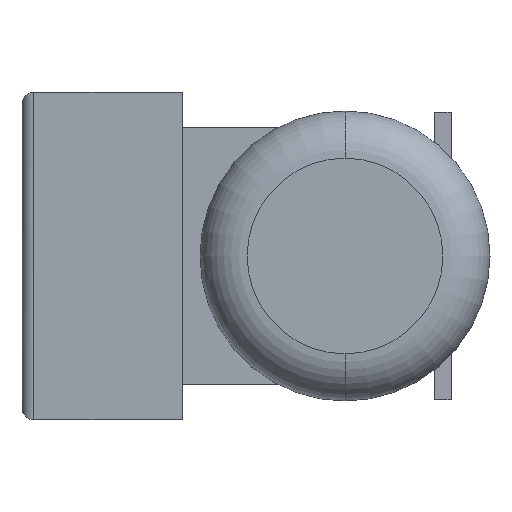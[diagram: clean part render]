
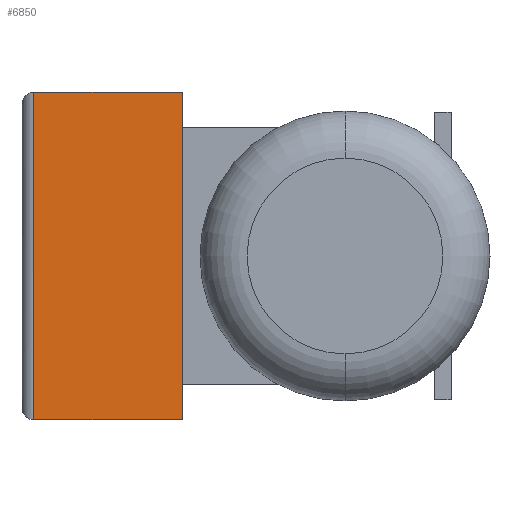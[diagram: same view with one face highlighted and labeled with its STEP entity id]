
A CAD part, left-side view. The second image highlights one B-rep face of the part: STEP entity #6850.
In plain terms, the highlighted planar face has unit normal (-1, 0, 0).
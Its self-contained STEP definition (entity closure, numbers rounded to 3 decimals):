
#4260=CARTESIAN_POINT('',(-162.5,96.731,-69.5));
#4270=VERTEX_POINT('',#4260);
#4300=CARTESIAN_POINT('',(-162.5,96.731,64.049));
#4310=DIRECTION('',(0.,0.,-1.));
#4320=VECTOR('',#4310,1.);
#4330=LINE('',#4300,#4320);
#4340=CARTESIAN_POINT('',(-162.5,96.731,69.5));
#4350=VERTEX_POINT('',#4340);
#4360=EDGE_CURVE('',#4350,#4270,#4330,.T.);
#4800=CARTESIAN_POINT('',(-162.5,159.731,69.5));
#4810=VERTEX_POINT('',#4800);
#6200=CARTESIAN_POINT('',(-162.5,159.731,-69.5));
#6210=VERTEX_POINT('',#6200);
#6450=CARTESIAN_POINT('',(-162.5,149.731,-69.5));
#6460=DIRECTION('',(0.,-1.,0.));
#6470=VECTOR('',#6460,1.);
#6480=LINE('',#6450,#6470);
#6490=EDGE_CURVE('',#6210,#4270,#6480,.T.);
#6640=CARTESIAN_POINT('',(-162.5,-131.88,64.049));
#6650=DIRECTION('',(1.,0.,0.));
#6660=DIRECTION('',(0.,0.,-1.));
#6670=AXIS2_PLACEMENT_3D('',#6640,#6650,#6660);
#6680=PLANE('',#6670);
#6690=CARTESIAN_POINT('',(-162.5,149.731,69.5));
#6700=DIRECTION('',(0.,-1.,0.));
#6710=VECTOR('',#6700,1.);
#6720=LINE('',#6690,#6710);
#6730=EDGE_CURVE('',#4810,#4350,#6720,.T.);
#6740=ORIENTED_EDGE('',*,*,#6730,.F.);
#6750=ORIENTED_EDGE('',*,*,#4360,.F.);
#6760=ORIENTED_EDGE('',*,*,#6490,.T.);
#6770=CARTESIAN_POINT('',(-162.5,159.731,64.049));
#6780=DIRECTION('',(0.,0.,-1.));
#6790=VECTOR('',#6780,1.);
#6800=LINE('',#6770,#6790);
#6810=EDGE_CURVE('',#4810,#6210,#6800,.T.);
#6820=ORIENTED_EDGE('',*,*,#6810,.T.);
#6830=EDGE_LOOP('',(#6820,#6760,#6750,#6740));
#6840=FACE_OUTER_BOUND('',#6830,.T.);
#6850=ADVANCED_FACE('',(#6840),#6680,.F.);
